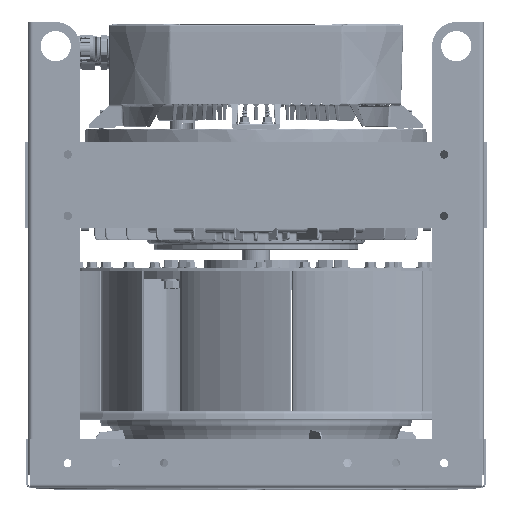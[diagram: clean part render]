
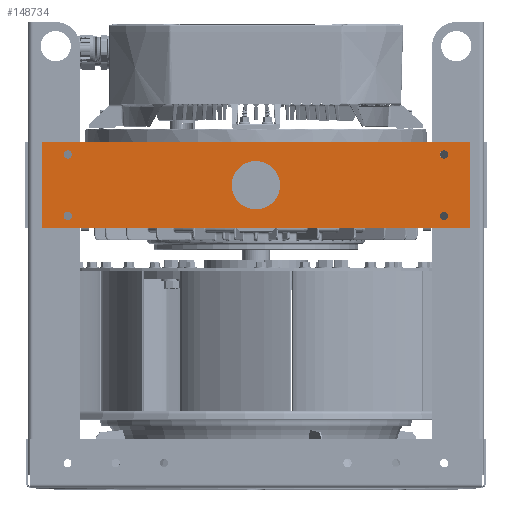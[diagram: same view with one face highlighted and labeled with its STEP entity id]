
A CAD part, front view. The second image highlights one B-rep face of the part: STEP entity #148734.
In plain terms, the highlighted planar face has unit normal (0, -1, 0) as drawn and (0, 0, -1) by its records, which use the part's own axes.
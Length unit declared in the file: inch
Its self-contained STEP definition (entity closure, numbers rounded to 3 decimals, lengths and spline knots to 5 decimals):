
#990 = FACE_BOUND ( 'NONE', #135540, .T. ) ;
#2329 = FACE_BOUND ( 'NONE', #62270, .T. ) ;
#5217 = CARTESIAN_POINT ( 'NONE',  ( 8.865, 0., 0. ) ) ;
#5858 = CIRCLE ( 'NONE', #90976, 0.172 ) ;
#6160 = CARTESIAN_POINT ( 'NONE',  ( 7.957, -1.27, 0. ) ) ;
#7687 = LINE ( 'NONE', #50398, #76084 ) ;
#11546 = ORIENTED_EDGE ( 'NONE', *, *, #210870, .T. ) ;
#14107 = EDGE_CURVE ( 'NONE', #83640, #83640, #165413, .T. ) ;
#14998 = AXIS2_PLACEMENT_3D ( 'NONE', #148036, #230591, #48074 ) ;
#15308 = ORIENTED_EDGE ( 'NONE', *, *, #190030, .F. ) ;
#19704 = FACE_OUTER_BOUND ( 'NONE', #129993, .T. ) ;
#22685 = CARTESIAN_POINT ( 'NONE',  ( 8.865, 1.77, 0. ) ) ;
#34927 = CIRCLE ( 'NONE', #235020, 0.172 ) ;
#47136 = EDGE_CURVE ( 'NONE', #193273, #210131, #194938, .T. ) ;
#48074 = DIRECTION ( 'NONE',  ( 1., 0., 0. ) ) ;
#48663 = ORIENTED_EDGE ( 'NONE', *, *, #67354, .F. ) ;
#50398 = CARTESIAN_POINT ( 'NONE',  ( 0., 1.77, 0. ) ) ;
#50659 = ORIENTED_EDGE ( 'NONE', *, *, #114288, .T. ) ;
#51630 = DIRECTION ( 'NONE',  ( 0., 0., 1. ) ) ;
#52514 = AXIS2_PLACEMENT_3D ( 'NONE', #263510, #203581, #142308 ) ;
#52721 = CARTESIAN_POINT ( 'NONE',  ( -7.785, -1.27, 0. ) ) ;
#62270 = EDGE_LOOP ( 'NONE', ( #11546 ) ) ;
#66201 = DIRECTION ( 'NONE',  ( 0., 0., 1. ) ) ;
#66962 = CARTESIAN_POINT ( 'NONE',  ( 1., 0., 0. ) ) ;
#67354 = EDGE_CURVE ( 'NONE', #158556, #193273, #7687, .T. ) ;
#70315 = DIRECTION ( 'NONE',  ( 1., 0., 0. ) ) ;
#72715 = CARTESIAN_POINT ( 'NONE',  ( -7.613, -1.27, 0. ) ) ;
#76084 = VECTOR ( 'NONE', #211560, 39.37008 ) ;
#81447 = DIRECTION ( 'NONE',  ( 1., 0., 0. ) ) ;
#81677 = EDGE_LOOP ( 'NONE', ( #113420 ) ) ;
#82775 = CARTESIAN_POINT ( 'NONE',  ( 7.785, 1.27, 0. ) ) ;
#83640 = VERTEX_POINT ( 'NONE', #223506 ) ;
#84941 = EDGE_LOOP ( 'NONE', ( #263433 ) ) ;
#89830 = CARTESIAN_POINT ( 'NONE',  ( 7.957, 1.27, 0. ) ) ;
#90976 = AXIS2_PLACEMENT_3D ( 'NONE', #52721, #112706, #237876 ) ;
#103658 = FACE_BOUND ( 'NONE', #220098, .T. ) ;
#103668 = EDGE_CURVE ( 'NONE', #209441, #209441, #151277, .T. ) ;
#112706 = DIRECTION ( 'NONE',  ( 0., 0., 1. ) ) ;
#113420 = ORIENTED_EDGE ( 'NONE', *, *, #14107, .T. ) ;
#114288 = EDGE_CURVE ( 'NONE', #192618, #192618, #5858, .T. ) ;
#118465 = CARTESIAN_POINT ( 'NONE',  ( -8.865, 1.77, 0. ) ) ;
#122004 = ORIENTED_EDGE ( 'NONE', *, *, #164493, .F. ) ;
#127218 = VERTEX_POINT ( 'NONE', #89830 ) ;
#129993 = EDGE_LOOP ( 'NONE', ( #164342, #48663, #15308, #122004 ) ) ;
#135540 = EDGE_LOOP ( 'NONE', ( #208088 ) ) ;
#136793 = DIRECTION ( 'NONE',  ( 1., 0., 0. ) ) ;
#142308 = DIRECTION ( 'NONE',  ( -1., 0., 0. ) ) ;
#144300 = CIRCLE ( 'NONE', #246401, 0.172 ) ;
#147474 = DIRECTION ( 'NONE',  ( 1., 0., 0. ) ) ;
#148036 = CARTESIAN_POINT ( 'NONE',  ( 0., 0., 0. ) ) ;
#148734 = ADVANCED_FACE ( 'NONE', ( #990, #19704, #103658, #182280, #184899, #2329 ), #226199, .T. ) ;
#150477 = LINE ( 'NONE', #5217, #251613 ) ;
#151277 = CIRCLE ( 'NONE', #14998, 1. ) ;
#154145 = CARTESIAN_POINT ( 'NONE',  ( 0., -1.77, 0. ) ) ;
#157590 = CARTESIAN_POINT ( 'NONE',  ( -8.865, 0., 0. ) ) ;
#157701 = CARTESIAN_POINT ( 'NONE',  ( 8.865, -1.77, 0. ) ) ;
#158556 = VERTEX_POINT ( 'NONE', #22685 ) ;
#164342 = ORIENTED_EDGE ( 'NONE', *, *, #47136, .F. ) ;
#164493 = EDGE_CURVE ( 'NONE', #210131, #186933, #174152, .T. ) ;
#165413 = CIRCLE ( 'NONE', #212149, 0.172 ) ;
#174152 = LINE ( 'NONE', #154145, #214683 ) ;
#177665 = EDGE_CURVE ( 'NONE', #188756, #188756, #144300, .T. ) ;
#182280 = FACE_BOUND ( 'NONE', #81677, .T. ) ;
#184899 = FACE_BOUND ( 'NONE', #84941, .T. ) ;
#186933 = VERTEX_POINT ( 'NONE', #157701 ) ;
#188756 = VERTEX_POINT ( 'NONE', #6160 ) ;
#190030 = EDGE_CURVE ( 'NONE', #186933, #158556, #150477, .T. ) ;
#192618 = VERTEX_POINT ( 'NONE', #72715 ) ;
#193273 = VERTEX_POINT ( 'NONE', #118465 ) ;
#194938 = LINE ( 'NONE', #157590, #208035 ) ;
#203581 = DIRECTION ( 'NONE',  ( 0., 0., -1. ) ) ;
#205610 = CARTESIAN_POINT ( 'NONE',  ( -8.865, -1.77, 0. ) ) ;
#208035 = VECTOR ( 'NONE', #220153, 39.37008 ) ;
#208088 = ORIENTED_EDGE ( 'NONE', *, *, #103668, .T. ) ;
#209087 = DIRECTION ( 'NONE',  ( 0., 1., 0. ) ) ;
#209441 = VERTEX_POINT ( 'NONE', #66962 ) ;
#210131 = VERTEX_POINT ( 'NONE', #205610 ) ;
#210870 = EDGE_CURVE ( 'NONE', #127218, #127218, #34927, .T. ) ;
#211560 = DIRECTION ( 'NONE',  ( -1., 0., 0. ) ) ;
#212149 = AXIS2_PLACEMENT_3D ( 'NONE', #251468, #51630, #70315 ) ;
#214683 = VECTOR ( 'NONE', #136793, 39.37008 ) ;
#220098 = EDGE_LOOP ( 'NONE', ( #50659 ) ) ;
#220153 = DIRECTION ( 'NONE',  ( 0., -1., 0. ) ) ;
#223506 = CARTESIAN_POINT ( 'NONE',  ( -7.613, 1.27, 0. ) ) ;
#226199 = PLANE ( 'NONE',  #52514 ) ;
#230591 = DIRECTION ( 'NONE',  ( 0., 0., 1. ) ) ;
#235020 = AXIS2_PLACEMENT_3D ( 'NONE', #82775, #252798, #81447 ) ;
#237876 = DIRECTION ( 'NONE',  ( 1., 0., 0. ) ) ;
#246401 = AXIS2_PLACEMENT_3D ( 'NONE', #248678, #66201, #147474 ) ;
#248678 = CARTESIAN_POINT ( 'NONE',  ( 7.785, -1.27, 0. ) ) ;
#251468 = CARTESIAN_POINT ( 'NONE',  ( -7.785, 1.27, 0. ) ) ;
#251613 = VECTOR ( 'NONE', #209087, 39.37008 ) ;
#252798 = DIRECTION ( 'NONE',  ( 0., 0., 1. ) ) ;
#263433 = ORIENTED_EDGE ( 'NONE', *, *, #177665, .T. ) ;
#263510 = CARTESIAN_POINT ( 'NONE',  ( 0., 0., 0. ) ) ;
